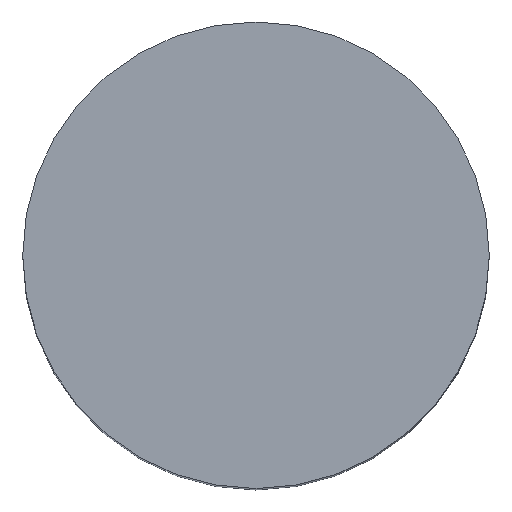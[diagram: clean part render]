
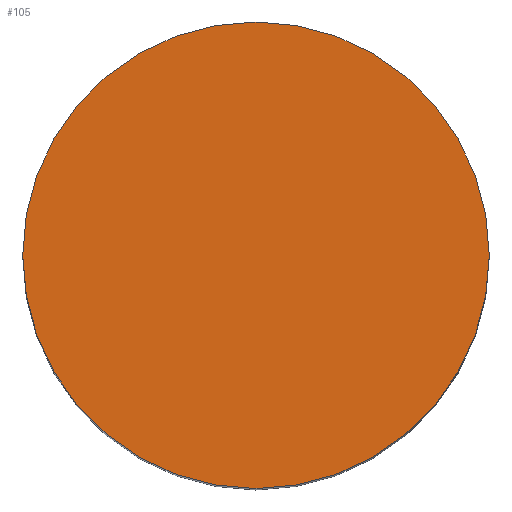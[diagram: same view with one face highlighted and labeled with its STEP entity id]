
A CAD part, top view. The second image highlights one B-rep face of the part: STEP entity #105.
In plain terms, the highlighted planar face has unit normal (0, 0, 1).
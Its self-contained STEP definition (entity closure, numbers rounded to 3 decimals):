
#21 = EDGE_CURVE('',#22,#22,#24,.T.);
#22 = VERTEX_POINT('',#23);
#23 = CARTESIAN_POINT('',(-80.,0.,-28.));
#24 = SURFACE_CURVE('',#25,(#30,#42),.PCURVE_S1.);
#25 = CIRCLE('',#26,5.);
#26 = AXIS2_PLACEMENT_3D('',#27,#28,#29);
#27 = CARTESIAN_POINT('',(-85.,0.,-28.));
#28 = DIRECTION('',(0.,0.,1.));
#29 = DIRECTION('',(1.,0.,-0.));
#30 = PCURVE('',#31,#36);
#31 = CYLINDRICAL_SURFACE('',#32,5.);
#32 = AXIS2_PLACEMENT_3D('',#33,#34,#35);
#33 = CARTESIAN_POINT('',(-85.,0.,-46.));
#34 = DIRECTION('',(0.,0.,1.));
#35 = DIRECTION('',(1.,0.,-0.));
#36 = DEFINITIONAL_REPRESENTATION('',(#37),#41);
#37 = LINE('',#38,#39);
#38 = CARTESIAN_POINT('',(0.,18.));
#39 = VECTOR('',#40,1.);
#40 = DIRECTION('',(1.,0.));
#41 = ( GEOMETRIC_REPRESENTATION_CONTEXT(2) 
PARAMETRIC_REPRESENTATION_CONTEXT() REPRESENTATION_CONTEXT('2D SPACE',''
  ) );
#42 = PCURVE('',#43,#48);
#43 = PLANE('',#44);
#44 = AXIS2_PLACEMENT_3D('',#45,#46,#47);
#45 = CARTESIAN_POINT('',(-85.,0.,-28.));
#46 = DIRECTION('',(0.,0.,1.));
#47 = DIRECTION('',(1.,0.,-0.));
#48 = DEFINITIONAL_REPRESENTATION('',(#49),#53);
#49 = CIRCLE('',#50,5.);
#50 = AXIS2_PLACEMENT_2D('',#51,#52);
#51 = CARTESIAN_POINT('',(0.,0.));
#52 = DIRECTION('',(1.,0.));
#53 = ( GEOMETRIC_REPRESENTATION_CONTEXT(2) 
PARAMETRIC_REPRESENTATION_CONTEXT() REPRESENTATION_CONTEXT('2D SPACE',''
  ) );
#105 = ADVANCED_FACE('',(#106),#43,.T.);
#106 = FACE_BOUND('',#107,.T.);
#107 = EDGE_LOOP('',(#108));
#108 = ORIENTED_EDGE('',*,*,#21,.T.);
